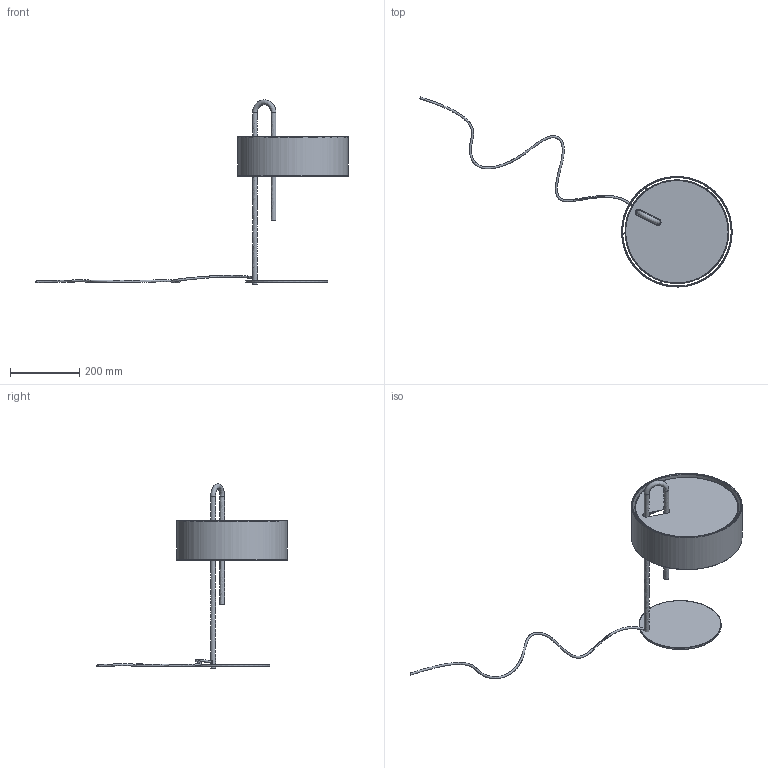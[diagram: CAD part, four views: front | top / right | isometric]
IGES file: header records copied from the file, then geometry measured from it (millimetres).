
Global section: file name: C:\Users\EQUIPO\Desktop\MODELADOS 3D ACB EUROLUCE 2019\Clip\clip table lamp\CLIP table lamp. (.iges).igs; native system: Rhinoceros ( Oct  8 2013 ); preprocessor: Trout Lake IGES 012 Oct  8 2013; date: 190326.182646; units: millimetre
Bounding box: 904.22 x 550.89 x 533.92 mm (x, y, z)
Surface area: 500763.9 mm2 (no closed solid volume)
Topology: 0 solids, 0 shells, 73 faces, 545 edges, 500 vertices
Faces by surface type: bspline 73
